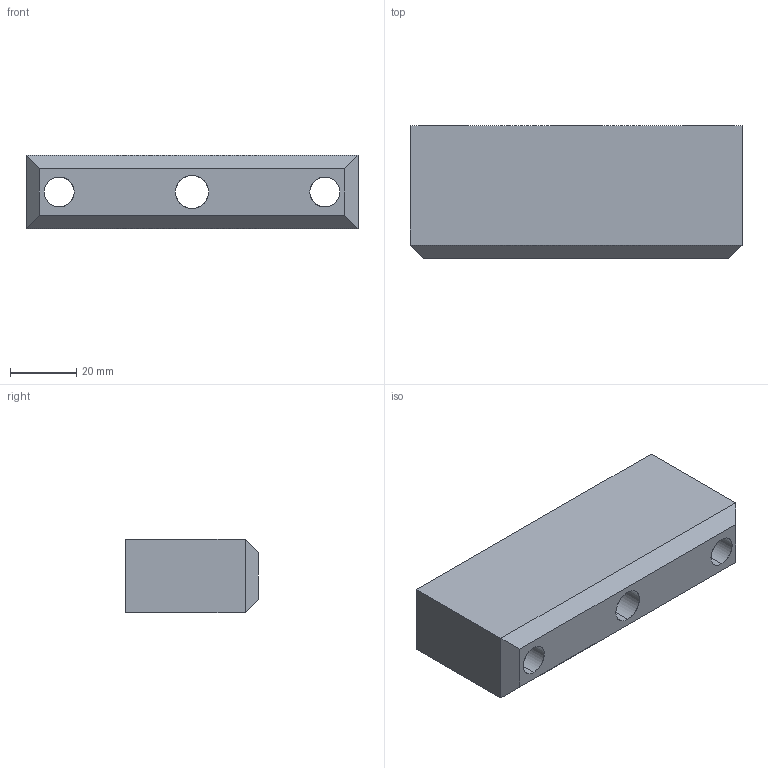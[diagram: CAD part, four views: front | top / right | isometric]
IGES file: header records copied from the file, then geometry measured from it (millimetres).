
Start section: START RECORD GO HERE.
Global section: file name: 761-040100.igs; native system: DASSAULT SYSTEMES CATIA V5 R20 - www.3ds.com; preprocessor: CATIA Version 5 Release 20 ; author: Utente; organization: NB04-ASUS; date: 20200411.173843; units: millimetre
Bounding box: 100 x 40 x 22 mm (x, y, z)
Surface area: 17548.5 mm2 (no closed solid volume)
Topology: 0 solids, 0 shells, 25 faces, 112 edges, 112 vertices
Faces by surface type: extrusion 13, revolution 12
